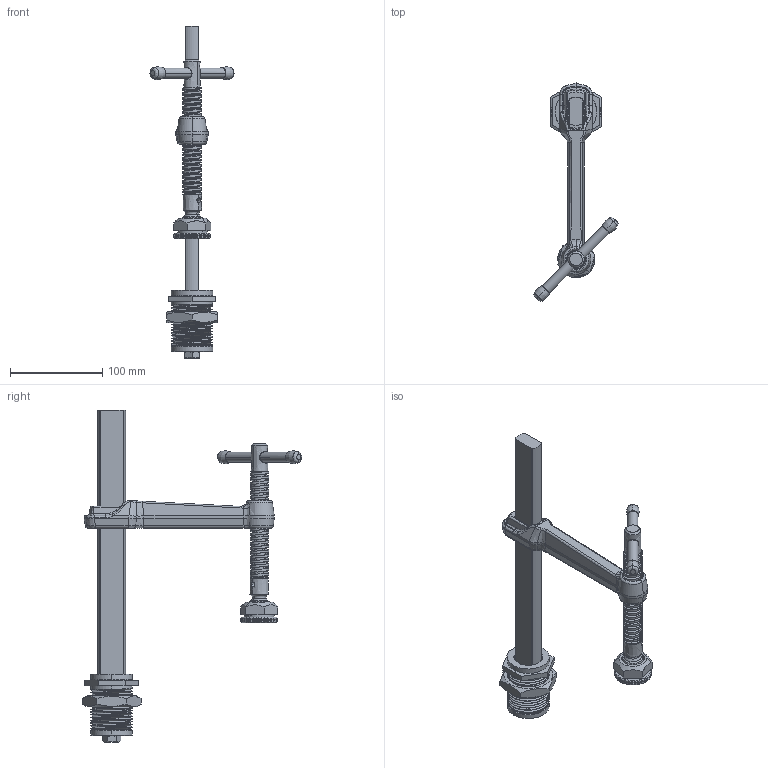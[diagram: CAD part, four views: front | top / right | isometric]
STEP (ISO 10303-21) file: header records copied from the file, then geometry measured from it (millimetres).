
FILE_DESCRIPTION( ( 'STEP AP214' ), '1' );
FILE_NAME( 'X:/CAD_Daten_Platzhalter/SGS20-14_FC24-8/SGS20-14_kpl.stp', ' ', ( ' ' ), ( ' ' ), 'PSStep 11.0', ' ', ' ' );
FILE_SCHEMA( ( 'AUTOMOTIVE_DESIGN { 1 0 10303 214 1 1 1 1 }' ) );
Length unit declared in the file: metre
Products named in the file (18): 1; 2; 3; 4; 5; 6; 7; 8; 9; 10; 11; 12; 13; 14; 15; 16; 17; 18
Bounding box: 91.11 x 237.21 x 359 mm (x, y, z)
Volume: 328148.9 mm3; surface area: 138071.6 mm2
Topology: 7 solids, 194 shells, 462 faces, 1588 edges, 1319 vertices
Faces by surface type: bspline 462
Entity records: 60742 total; most frequent: CARTESIAN_POINT 48820, ORIENTED_EDGE 2248, EDGE_CURVE 1583, VERTEX_POINT 1319, B_SPLINE_CURVE_WITH_KNOTS 1173, EDGE_LOOP 494, STYLED_ITEM 462, PRESENTATION_STYLE_ASSIGNMENT 462
